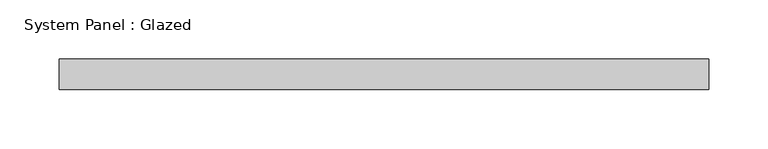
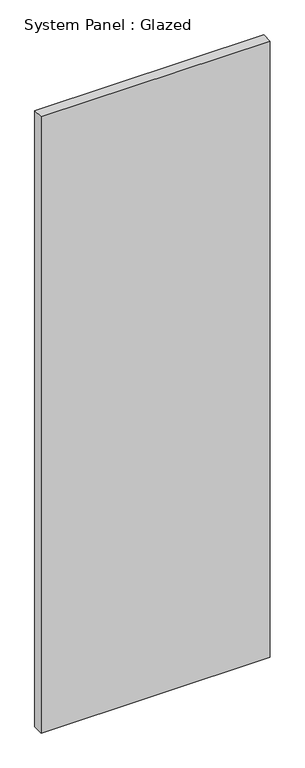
"""IFC4 building model written with IfcOpenShell, lengths in millimetres: plate geometry, System Panel : Glazed."""

from ifc_helpers import new_model, si_unit, origin, origin_with_axes, place, context, project, spatial, polyline, outline, extrude, source, transform, mapped, element, save


def system_panel_glazed_79271b8f(model_context):
    return source(origin(), model_context, "Body", "SweptSolid", [
        extrude(outline(polyline([(273.05, -44.45), (-273.05, -44.45), (-273.05, -19.05), (273.05, -19.05), (273.05, -44.45)])), origin_with_axes(), (0.0, 0.0, 1.0), 1552.4868509),
    ])


if __name__ == "__main__":
    model = new_model("IFC4")
    model_context = context("Model", 3, world=origin())
    ifc_project = project(units=[si_unit("LENGTHUNIT", "METRE", prefix="MILLI")], contexts=[model_context])
    site = spatial("IfcSite", under=ifc_project)
    building = spatial("IfcBuilding", under=site)
    placement = place(None, origin())
    system_panel_glazed_shape = system_panel_glazed_79271b8f(model_context)
    element("IfcPlate", 1, ObjectType="System Panel : Glazed", at=placement, inside=building, context=model_context, shape_type="MappedRepresentation", body=[
        mapped(system_panel_glazed_shape, transform((0.0, 0.0, 0.0), x_axis=(1.0, 0.0, 0.0), y_axis=(0.0, 1.0, 0.0), z_axis=(0.0, 0.0, 1.0))),
    ])
    save(model, "model.ifc")
